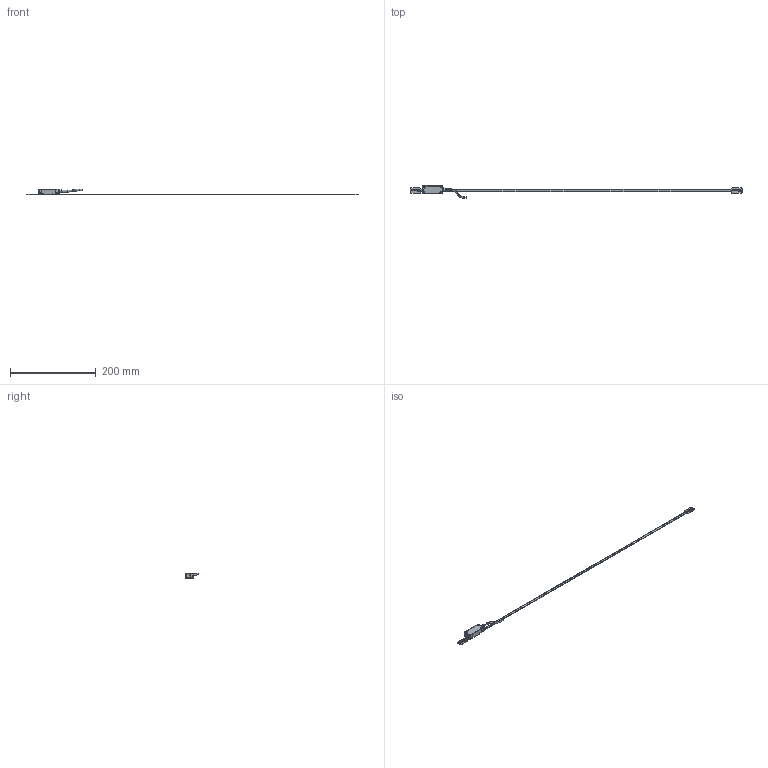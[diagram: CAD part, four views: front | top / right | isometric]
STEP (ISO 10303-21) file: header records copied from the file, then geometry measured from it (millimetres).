
FILE_DESCRIPTION(('Creo Elements/Direct Modeling STEP Export'),'2;1');
FILE_NAME('EXA-670.stp','2017-01-11T14:52:36',(''),(''),'Creo Elements/Direct Modeling STEP processor for AP214 (Solid Model)','Creo Elements/Direct Modeling 18.1H 24-Oct-2015 (C) Parametric Technology GmbH','');
FILE_SCHEMA(('AUTOMOTIVE_DESIGN { 1 0 10303 214 1 1 1 1 }'));
Length unit declared in the file: millimetre
Products named in the file (3): CABEZA_REGLA_EXPOSED; FLEJE_REGLA_EXPOSED_ADHESIVADA_670
Assembly tree (1 placements, depth 2):
  CABEZA_REGLA_EXPOSED
    CABEZA_REGLA_EXPOSED
  FLEJE_REGLA_EXPOSED_ADHESIVADA_670
Bounding box: 776 x 29.33 x 13.16 mm (x, y, z)
Volume: 13649.4 mm3; surface area: 16083.8 mm2
Topology: 2 solids, 4 shells, 1177 faces, 3350 edges, 2205 vertices
Faces by surface type: plane 1044, cylinder 93, cone 32, torus 8
Entity records: 36900 total; most frequent: ORIENTED_EDGE 6692, CARTESIAN_POINT 6396, DIRECTION 5405, EDGE_CURVE 3346, VECTOR 2957, LINE 2957, VERTEX_POINT 2205, AXIS2_PLACEMENT_3D 1224
